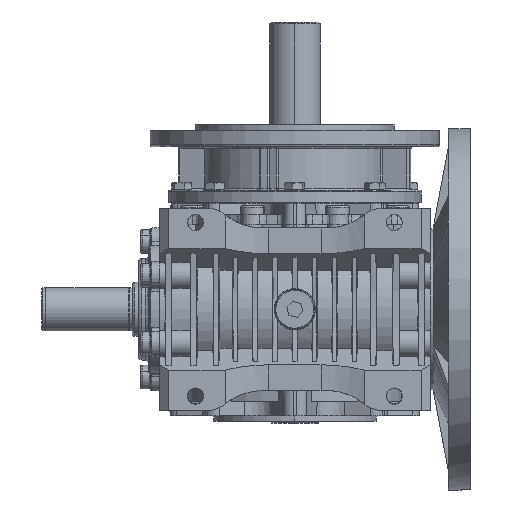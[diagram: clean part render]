
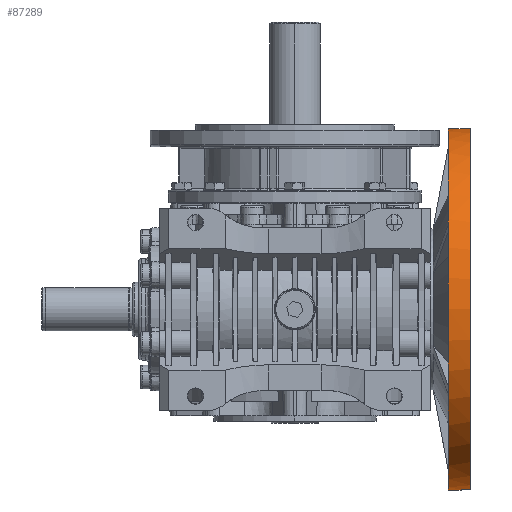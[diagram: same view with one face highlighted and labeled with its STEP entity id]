
A CAD part, front view. The second image highlights one B-rep face of the part: STEP entity #87289.
In plain terms, the highlighted cylindrical face has radius 100 mm (diameter 200 mm), a partial arc.
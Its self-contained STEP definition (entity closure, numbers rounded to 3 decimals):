
#835 = DIRECTION ( 'NONE',  ( 0., 0., -1. ) ) ;
#4221 = CARTESIAN_POINT ( 'NONE',  ( 85., -63., 100. ) ) ;
#4400 = CARTESIAN_POINT ( 'NONE',  ( 92., -63., 0. ) ) ;
#6678 = DIRECTION ( 'NONE',  ( -1., 0., 0. ) ) ;
#7707 = VECTOR ( 'NONE', #121628, 1000. ) ;
#14440 = ORIENTED_EDGE ( 'NONE', *, *, #84342, .F. ) ;
#16083 = CARTESIAN_POINT ( 'NONE',  ( 187.177, -63., -100. ) ) ;
#18195 = FACE_OUTER_BOUND ( 'NONE', #97000, .T. ) ;
#18854 = CARTESIAN_POINT ( 'NONE',  ( 92., -69., 99.82 ) ) ;
#20244 = CIRCLE ( 'NONE', #127641, 100. ) ;
#22567 = DIRECTION ( 'NONE',  ( 1., 0., 0. ) ) ;
#24026 = LINE ( 'NONE', #16083, #44367 ) ;
#24715 = CARTESIAN_POINT ( 'NONE',  ( 187.177, -69., -99.82 ) ) ;
#26099 = EDGE_CURVE ( 'NONE', #27311, #90124, #84718, .T. ) ;
#26255 = ORIENTED_EDGE ( 'NONE', *, *, #31596, .F. ) ;
#27311 = VERTEX_POINT ( 'NONE', #97264 ) ;
#31596 = EDGE_CURVE ( 'NONE', #122084, #27311, #20244, .T. ) ;
#31794 = CARTESIAN_POINT ( 'NONE',  ( 187.177, -63., 100. ) ) ;
#32444 = LINE ( 'NONE', #31794, #117561 ) ;
#37812 = AXIS2_PLACEMENT_3D ( 'NONE', #98673, #94580, #84042 ) ;
#40158 = CIRCLE ( 'NONE', #92765, 100. ) ;
#41079 = CARTESIAN_POINT ( 'NONE',  ( 97., -63., 0. ) ) ;
#41200 = CARTESIAN_POINT ( 'NONE',  ( 92., -63., 100. ) ) ;
#41586 = ORIENTED_EDGE ( 'NONE', *, *, #114374, .T. ) ;
#44367 = VECTOR ( 'NONE', #56276, 1000. ) ;
#44640 = DIRECTION ( 'NONE',  ( 1., 0., 0. ) ) ;
#47581 = DIRECTION ( 'NONE',  ( 0., 0., 1. ) ) ;
#56276 = DIRECTION ( 'NONE',  ( 1., 0., 0. ) ) ;
#56799 = CARTESIAN_POINT ( 'NONE',  ( 92., -63., 0. ) ) ;
#57037 = ORIENTED_EDGE ( 'NONE', *, *, #115914, .F. ) ;
#58392 = CYLINDRICAL_SURFACE ( 'NONE', #37812, 100. ) ;
#59150 = DIRECTION ( 'NONE',  ( 1., 0., 0. ) ) ;
#62247 = CARTESIAN_POINT ( 'NONE',  ( 187.177, -69., 99.82 ) ) ;
#65207 = EDGE_CURVE ( 'NONE', #91594, #125144, #24026, .T. ) ;
#66242 = DIRECTION ( 'NONE',  ( -1., 0., 0. ) ) ;
#66244 = CARTESIAN_POINT ( 'NONE',  ( 92., -63., -100. ) ) ;
#72293 = VECTOR ( 'NONE', #66242, 1000. ) ;
#76226 = CIRCLE ( 'NONE', #126734, 100. ) ;
#76669 = CIRCLE ( 'NONE', #110347, 100. ) ;
#78302 = ORIENTED_EDGE ( 'NONE', *, *, #65207, .T. ) ;
#83789 = CARTESIAN_POINT ( 'NONE',  ( 97., -69., 99.82 ) ) ;
#84042 = DIRECTION ( 'NONE',  ( 0., 0., -1. ) ) ;
#84342 = EDGE_CURVE ( 'NONE', #85102, #87144, #32444, .T. ) ;
#84718 = LINE ( 'NONE', #24715, #72293 ) ;
#85102 = VERTEX_POINT ( 'NONE', #4221 ) ;
#87144 = VERTEX_POINT ( 'NONE', #41200 ) ;
#87289 = ADVANCED_FACE ( 'NONE', ( #18195 ), #58392, .T. ) ;
#87982 = VERTEX_POINT ( 'NONE', #18854 ) ;
#90124 = VERTEX_POINT ( 'NONE', #102234 ) ;
#91594 = VERTEX_POINT ( 'NONE', #122491 ) ;
#92765 = AXIS2_PLACEMENT_3D ( 'NONE', #4400, #44640, #112586 ) ;
#93889 = ORIENTED_EDGE ( 'NONE', *, *, #26099, .F. ) ;
#94580 = DIRECTION ( 'NONE',  ( 1., 0., 0. ) ) ;
#97000 = EDGE_LOOP ( 'NONE', ( #14440, #41586, #78302, #118790, #93889, #26255, #57037, #119400 ) ) ;
#97264 = CARTESIAN_POINT ( 'NONE',  ( 97., -69., -99.82 ) ) ;
#98158 = DIRECTION ( 'NONE',  ( 0., 0., -1. ) ) ;
#98673 = CARTESIAN_POINT ( 'NONE',  ( 187.177, -63., 0. ) ) ;
#101119 = DIRECTION ( 'NONE',  ( 1., 0., 0. ) ) ;
#102234 = CARTESIAN_POINT ( 'NONE',  ( 92., -69., -99.82 ) ) ;
#109278 = CARTESIAN_POINT ( 'NONE',  ( 85., -63., 0. ) ) ;
#110347 = AXIS2_PLACEMENT_3D ( 'NONE', #56799, #6678, #47581 ) ;
#112586 = DIRECTION ( 'NONE',  ( 0., 0., -1. ) ) ;
#114374 = EDGE_CURVE ( 'NONE', #85102, #91594, #76226, .T. ) ;
#115914 = EDGE_CURVE ( 'NONE', #87982, #122084, #122918, .T. ) ;
#117561 = VECTOR ( 'NONE', #22567, 1000. ) ;
#118790 = ORIENTED_EDGE ( 'NONE', *, *, #124634, .T. ) ;
#119400 = ORIENTED_EDGE ( 'NONE', *, *, #121386, .F. ) ;
#121386 = EDGE_CURVE ( 'NONE', #87144, #87982, #40158, .T. ) ;
#121628 = DIRECTION ( 'NONE',  ( 1., 0., 0. ) ) ;
#122084 = VERTEX_POINT ( 'NONE', #83789 ) ;
#122491 = CARTESIAN_POINT ( 'NONE',  ( 85., -63., -100. ) ) ;
#122918 = LINE ( 'NONE', #62247, #7707 ) ;
#124634 = EDGE_CURVE ( 'NONE', #125144, #90124, #76669, .T. ) ;
#125144 = VERTEX_POINT ( 'NONE', #66244 ) ;
#126734 = AXIS2_PLACEMENT_3D ( 'NONE', #109278, #59150, #98158 ) ;
#127641 = AXIS2_PLACEMENT_3D ( 'NONE', #41079, #101119, #835 ) ;
